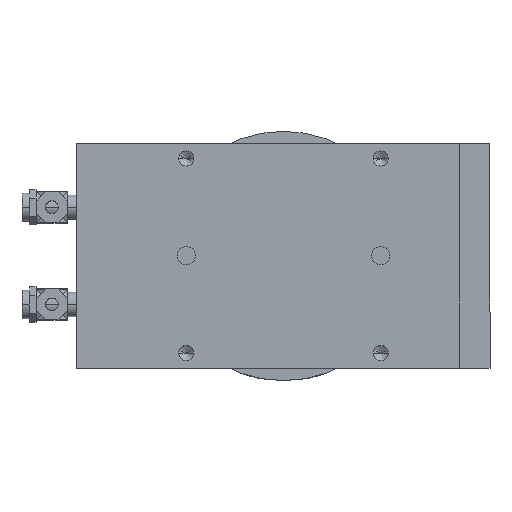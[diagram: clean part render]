
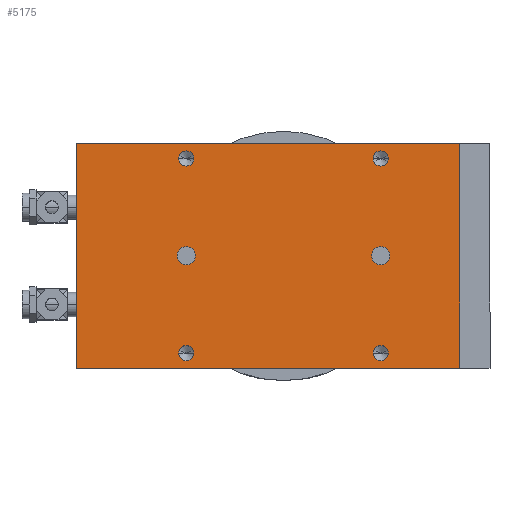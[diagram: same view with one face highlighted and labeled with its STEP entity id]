
A CAD part, top view. The second image highlights one B-rep face of the part: STEP entity #5175.
In plain terms, the highlighted planar face has unit normal (0, 0, 1).
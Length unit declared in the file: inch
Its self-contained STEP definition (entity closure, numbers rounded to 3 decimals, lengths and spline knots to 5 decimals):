
#1 = EDGE_LOOP ( 'NONE', ( #2208, #8060 ) ) ;
#120 = CARTESIAN_POINT ( 'NONE',  ( 2.15625, -2., 1. ) ) ;
#175 = DIRECTION ( 'NONE',  ( 0., 0., 1. ) ) ;
#250 = AXIS2_PLACEMENT_3D ( 'NONE', #7721, #1159, #8819 ) ;
#260 = VERTEX_POINT ( 'NONE', #9724 ) ;
#261 = DIRECTION ( 'NONE',  ( 1., 0., 0. ) ) ;
#517 = DIRECTION ( 'NONE',  ( 0., 0., -1. ) ) ;
#653 = VERTEX_POINT ( 'NONE', #3819 ) ;
#746 = CARTESIAN_POINT ( 'NONE',  ( 1.8115, 0., 1. ) ) ;
#762 = VERTEX_POINT ( 'NONE', #10561 ) ;
#852 = LINE ( 'NONE', #9988, #6699 ) ;
#954 = VERTEX_POINT ( 'NONE', #13595 ) ;
#976 = AXIS2_PLACEMENT_3D ( 'NONE', #10412, #3877, #11521 ) ;
#1029 = EDGE_CURVE ( 'NONE', #12864, #7325, #4578, .T. ) ;
#1045 = CIRCLE ( 'NONE', #4465, 0.1885 ) ;
#1110 = CIRCLE ( 'NONE', #10026, 0.15625 ) ;
#1147 = AXIS2_PLACEMENT_3D ( 'NONE', #2075, #9709, #3177 ) ;
#1159 = DIRECTION ( 'NONE',  ( 0., 0., 1. ) ) ;
#1205 = EDGE_CURVE ( 'NONE', #1822, #6233, #1110, .T. ) ;
#1240 = CARTESIAN_POINT ( 'NONE',  ( 1.84375, 2., 1. ) ) ;
#1262 = CIRCLE ( 'NONE', #976, 0.1885 ) ;
#1339 = CARTESIAN_POINT ( 'NONE',  ( -2., 0., 1. ) ) ;
#1343 = EDGE_LOOP ( 'NONE', ( #13309, #9633 ) ) ;
#1371 = FACE_BOUND ( 'NONE', #1, .T. ) ;
#1380 = EDGE_CURVE ( 'NONE', #9826, #954, #8141, .T. ) ;
#1480 = ORIENTED_EDGE ( 'NONE', *, *, #3279, .F. ) ;
#1506 = CARTESIAN_POINT ( 'NONE',  ( -1.84375, -2., 1. ) ) ;
#1562 = CIRCLE ( 'NONE', #7853, 0.15625 ) ;
#1730 = FACE_BOUND ( 'NONE', #9072, .T. ) ;
#1822 = VERTEX_POINT ( 'NONE', #13332 ) ;
#2075 = CARTESIAN_POINT ( 'NONE',  ( -2., -2., 1. ) ) ;
#2208 = ORIENTED_EDGE ( 'NONE', *, *, #1205, .F. ) ;
#2336 = CARTESIAN_POINT ( 'NONE',  ( 3.625, -2.3125, 1. ) ) ;
#2346 = DIRECTION ( 'NONE',  ( -1., 0., 0. ) ) ;
#2356 = CARTESIAN_POINT ( 'NONE',  ( -4.25, -2.3125, 1. ) ) ;
#2462 = DIRECTION ( 'NONE',  ( 1., 0., 0. ) ) ;
#2643 = CIRCLE ( 'NONE', #12467, 0.15625 ) ;
#2797 = LINE ( 'NONE', #8338, #8602 ) ;
#2802 = EDGE_CURVE ( 'NONE', #4778, #653, #4698, .T. ) ;
#3105 = VERTEX_POINT ( 'NONE', #1506 ) ;
#3177 = DIRECTION ( 'NONE',  ( 1., 0., 0. ) ) ;
#3233 = CARTESIAN_POINT ( 'NONE',  ( 1.84375, -2., 1. ) ) ;
#3279 = EDGE_CURVE ( 'NONE', #8156, #9761, #2643, .T. ) ;
#3345 = ORIENTED_EDGE ( 'NONE', *, *, #1380, .F. ) ;
#3410 = ORIENTED_EDGE ( 'NONE', *, *, #13284, .F. ) ;
#3421 = ORIENTED_EDGE ( 'NONE', *, *, #6301, .F. ) ;
#3819 = CARTESIAN_POINT ( 'NONE',  ( 2.1885, 0., 1. ) ) ;
#3877 = DIRECTION ( 'NONE',  ( 0., 0., 1. ) ) ;
#3991 = EDGE_LOOP ( 'NONE', ( #4818, #11378, #10699, #5071 ) ) ;
#4011 = CARTESIAN_POINT ( 'NONE',  ( -2., 2., 1. ) ) ;
#4032 = DIRECTION ( 'NONE',  ( 0., 0., 1. ) ) ;
#4303 = CIRCLE ( 'NONE', #10983, 0.15625 ) ;
#4312 = FACE_BOUND ( 'NONE', #7466, .T. ) ;
#4438 = CIRCLE ( 'NONE', #8691, 0.15625 ) ;
#4465 = AXIS2_PLACEMENT_3D ( 'NONE', #1339, #8985, #2462 ) ;
#4544 = CARTESIAN_POINT ( 'NONE',  ( 2., 2., 1. ) ) ;
#4578 = LINE ( 'NONE', #9294, #9680 ) ;
#4698 = CIRCLE ( 'NONE', #6204, 0.1885 ) ;
#4778 = VERTEX_POINT ( 'NONE', #746 ) ;
#4783 = LINE ( 'NONE', #9922, #12878 ) ;
#4818 = ORIENTED_EDGE ( 'NONE', *, *, #10005, .T. ) ;
#4916 = EDGE_CURVE ( 'NONE', #6233, #1822, #1562, .T. ) ;
#4979 = DIRECTION ( 'NONE',  ( 0., 1., 0. ) ) ;
#5071 = ORIENTED_EDGE ( 'NONE', *, *, #12269, .T. ) ;
#5112 = DIRECTION ( 'NONE',  ( 1., 0., 0. ) ) ;
#5175 = ADVANCED_FACE ( 'NONE', ( #7548, #1730, #7220, #4312, #1371, #12744, #9764 ), #6757, .T. ) ;
#5442 = CIRCLE ( 'NONE', #1147, 0.15625 ) ;
#5504 = VERTEX_POINT ( 'NONE', #12975 ) ;
#5588 = DIRECTION ( 'NONE',  ( 0., 0., 1. ) ) ;
#5611 = CARTESIAN_POINT ( 'NONE',  ( -1.8115, 0., 1. ) ) ;
#5639 = DIRECTION ( 'NONE',  ( 1., 0., 0. ) ) ;
#6204 = AXIS2_PLACEMENT_3D ( 'NONE', #6226, #13949, #7329 ) ;
#6226 = CARTESIAN_POINT ( 'NONE',  ( 2., 0., 1. ) ) ;
#6233 = VERTEX_POINT ( 'NONE', #10949 ) ;
#6278 = EDGE_CURVE ( 'NONE', #260, #12864, #4783, .T. ) ;
#6301 = EDGE_CURVE ( 'NONE', #954, #9826, #4438, .T. ) ;
#6348 = CARTESIAN_POINT ( 'NONE',  ( -2., 2., 1. ) ) ;
#6699 = VECTOR ( 'NONE', #2346, 39.37008 ) ;
#6757 = PLANE ( 'NONE',  #9032 ) ;
#6838 = DIRECTION ( 'NONE',  ( 0., 0., 1. ) ) ;
#7027 = EDGE_CURVE ( 'NONE', #653, #4778, #13383, .T. ) ;
#7105 = CARTESIAN_POINT ( 'NONE',  ( 2., 0., 1. ) ) ;
#7220 = FACE_BOUND ( 'NONE', #11984, .T. ) ;
#7235 = DIRECTION ( 'NONE',  ( 0., -1., 0. ) ) ;
#7271 = EDGE_CURVE ( 'NONE', #11044, #3105, #5442, .T. ) ;
#7314 = AXIS2_PLACEMENT_3D ( 'NONE', #7105, #517, #8196 ) ;
#7325 = VERTEX_POINT ( 'NONE', #12037 ) ;
#7329 = DIRECTION ( 'NONE',  ( -1., 0., 0. ) ) ;
#7444 = DIRECTION ( 'NONE',  ( 1., 0., 0. ) ) ;
#7466 = EDGE_LOOP ( 'NONE', ( #11441, #11306 ) ) ;
#7548 = FACE_OUTER_BOUND ( 'NONE', #3991, .T. ) ;
#7721 = CARTESIAN_POINT ( 'NONE',  ( 2., -2., 1. ) ) ;
#7841 = DIRECTION ( 'NONE',  ( 1., 0., 0. ) ) ;
#7853 = AXIS2_PLACEMENT_3D ( 'NONE', #4011, #11662, #5112 ) ;
#8060 = ORIENTED_EDGE ( 'NONE', *, *, #4916, .F. ) ;
#8141 = CIRCLE ( 'NONE', #9001, 0.15625 ) ;
#8156 = VERTEX_POINT ( 'NONE', #120 ) ;
#8196 = DIRECTION ( 'NONE',  ( -1., 0., 0. ) ) ;
#8338 = CARTESIAN_POINT ( 'NONE',  ( -4.25, 2.3125, 1. ) ) ;
#8456 = EDGE_LOOP ( 'NONE', ( #9941, #9586 ) ) ;
#8602 = VECTOR ( 'NONE', #7235, 39.37008 ) ;
#8691 = AXIS2_PLACEMENT_3D ( 'NONE', #4544, #12208, #5639 ) ;
#8734 = EDGE_CURVE ( 'NONE', #10357, #5504, #1262, .T. ) ;
#8819 = DIRECTION ( 'NONE',  ( 1., 0., 0. ) ) ;
#8985 = DIRECTION ( 'NONE',  ( 0., 0., 1. ) ) ;
#9001 = AXIS2_PLACEMENT_3D ( 'NONE', #12152, #5588, #13294 ) ;
#9032 = AXIS2_PLACEMENT_3D ( 'NONE', #2356, #175, #7841 ) ;
#9072 = EDGE_LOOP ( 'NONE', ( #3421, #3345 ) ) ;
#9294 = CARTESIAN_POINT ( 'NONE',  ( 3.625, 2.3125, 1. ) ) ;
#9586 = ORIENTED_EDGE ( 'NONE', *, *, #10686, .F. ) ;
#9633 = ORIENTED_EDGE ( 'NONE', *, *, #2802, .T. ) ;
#9680 = VECTOR ( 'NONE', #4979, 39.37008 ) ;
#9709 = DIRECTION ( 'NONE',  ( 0., 0., 1. ) ) ;
#9724 = CARTESIAN_POINT ( 'NONE',  ( -4.25, -2.3125, 1. ) ) ;
#9761 = VERTEX_POINT ( 'NONE', #3233 ) ;
#9764 = FACE_BOUND ( 'NONE', #1343, .T. ) ;
#9826 = VERTEX_POINT ( 'NONE', #1240 ) ;
#9922 = CARTESIAN_POINT ( 'NONE',  ( -4.25, -2.3125, 1. ) ) ;
#9941 = ORIENTED_EDGE ( 'NONE', *, *, #8734, .F. ) ;
#9988 = CARTESIAN_POINT ( 'NONE',  ( -4.25, 2.3125, 1. ) ) ;
#10005 = EDGE_CURVE ( 'NONE', #762, #260, #2797, .T. ) ;
#10026 = AXIS2_PLACEMENT_3D ( 'NONE', #6348, #14073, #7444 ) ;
#10357 = VERTEX_POINT ( 'NONE', #5611 ) ;
#10412 = CARTESIAN_POINT ( 'NONE',  ( -2., 0., 1. ) ) ;
#10561 = CARTESIAN_POINT ( 'NONE',  ( -4.25, 2.3125, 1. ) ) ;
#10576 = CARTESIAN_POINT ( 'NONE',  ( 2., -2., 1. ) ) ;
#10686 = EDGE_CURVE ( 'NONE', #5504, #10357, #1045, .T. ) ;
#10699 = ORIENTED_EDGE ( 'NONE', *, *, #1029, .T. ) ;
#10949 = CARTESIAN_POINT ( 'NONE',  ( -2.15625, 2., 1. ) ) ;
#10983 = AXIS2_PLACEMENT_3D ( 'NONE', #13455, #6838, #261 ) ;
#11044 = VERTEX_POINT ( 'NONE', #14281 ) ;
#11079 = CIRCLE ( 'NONE', #250, 0.15625 ) ;
#11306 = ORIENTED_EDGE ( 'NONE', *, *, #7271, .F. ) ;
#11378 = ORIENTED_EDGE ( 'NONE', *, *, #6278, .T. ) ;
#11441 = ORIENTED_EDGE ( 'NONE', *, *, #11695, .F. ) ;
#11521 = DIRECTION ( 'NONE',  ( 1., 0., 0. ) ) ;
#11662 = DIRECTION ( 'NONE',  ( 0., 0., 1. ) ) ;
#11680 = DIRECTION ( 'NONE',  ( 1., 0., 0. ) ) ;
#11695 = EDGE_CURVE ( 'NONE', #3105, #11044, #4303, .T. ) ;
#11984 = EDGE_LOOP ( 'NONE', ( #1480, #3410 ) ) ;
#12037 = CARTESIAN_POINT ( 'NONE',  ( 3.625, 2.3125, 1. ) ) ;
#12114 = DIRECTION ( 'NONE',  ( 1., 0., 0. ) ) ;
#12152 = CARTESIAN_POINT ( 'NONE',  ( 2., 2., 1. ) ) ;
#12208 = DIRECTION ( 'NONE',  ( 0., 0., 1. ) ) ;
#12269 = EDGE_CURVE ( 'NONE', #7325, #762, #852, .T. ) ;
#12467 = AXIS2_PLACEMENT_3D ( 'NONE', #10576, #4032, #11680 ) ;
#12744 = FACE_BOUND ( 'NONE', #8456, .T. ) ;
#12864 = VERTEX_POINT ( 'NONE', #2336 ) ;
#12878 = VECTOR ( 'NONE', #12114, 39.37008 ) ;
#12975 = CARTESIAN_POINT ( 'NONE',  ( -2.1885, 0., 1. ) ) ;
#13284 = EDGE_CURVE ( 'NONE', #9761, #8156, #11079, .T. ) ;
#13294 = DIRECTION ( 'NONE',  ( 1., 0., 0. ) ) ;
#13309 = ORIENTED_EDGE ( 'NONE', *, *, #7027, .T. ) ;
#13332 = CARTESIAN_POINT ( 'NONE',  ( -1.84375, 2., 1. ) ) ;
#13383 = CIRCLE ( 'NONE', #7314, 0.1885 ) ;
#13455 = CARTESIAN_POINT ( 'NONE',  ( -2., -2., 1. ) ) ;
#13595 = CARTESIAN_POINT ( 'NONE',  ( 2.15625, 2., 1. ) ) ;
#13949 = DIRECTION ( 'NONE',  ( 0., 0., -1. ) ) ;
#14073 = DIRECTION ( 'NONE',  ( 0., 0., 1. ) ) ;
#14281 = CARTESIAN_POINT ( 'NONE',  ( -2.15625, -2., 1. ) ) ;
